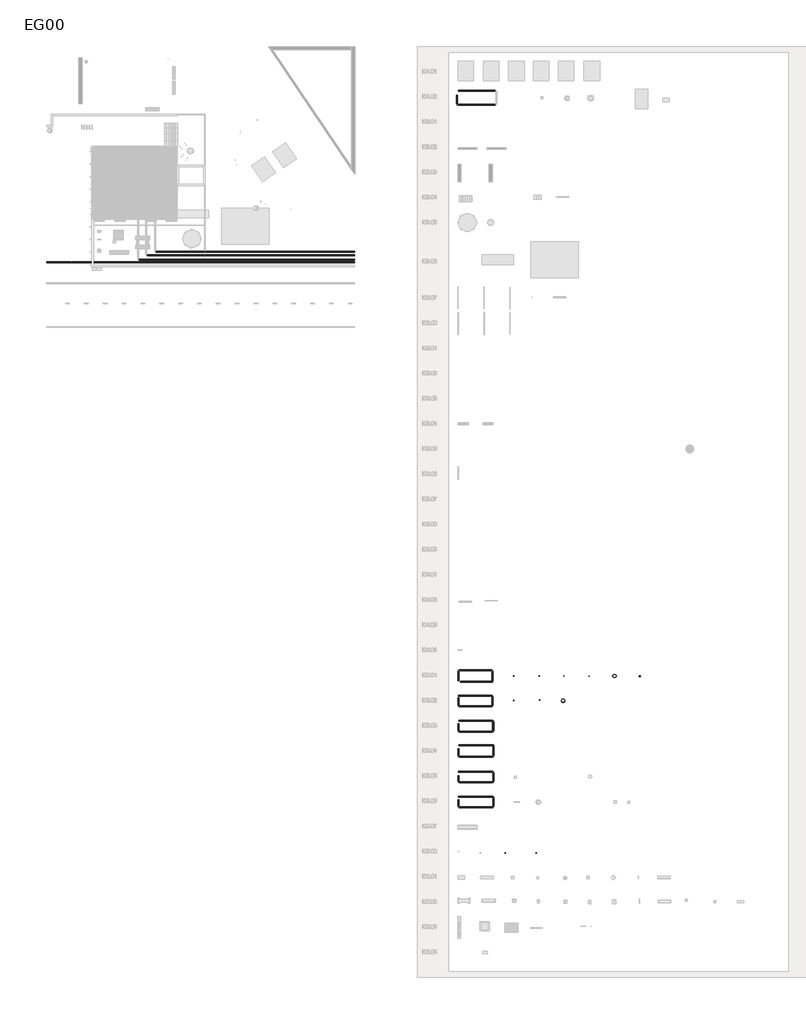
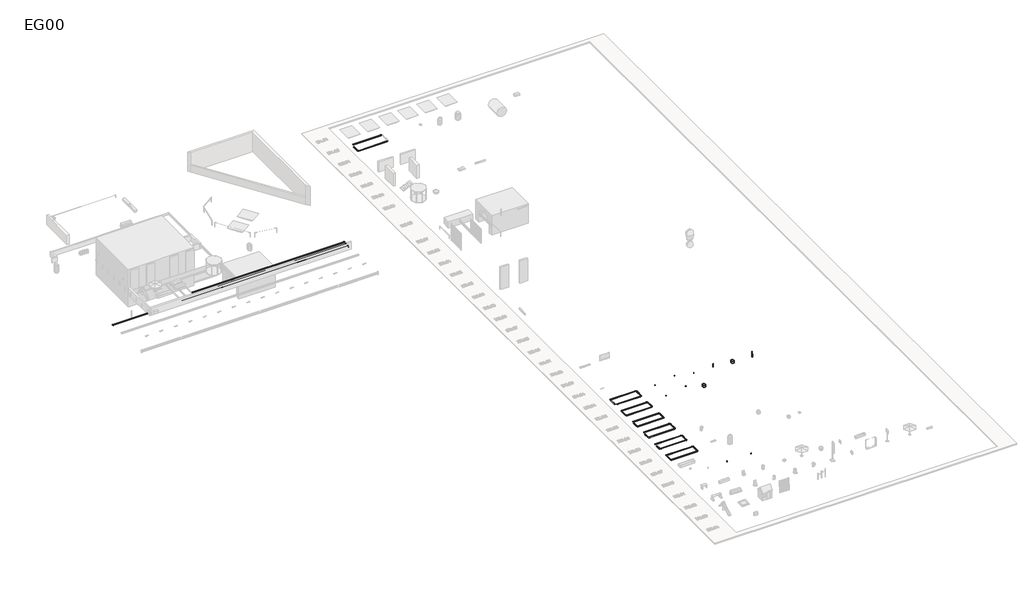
# One storey, part 3 of 11: 31 pipe segments, 19 pipe fittings, 11 proxies.
"""IFC4 building model written with IfcOpenShell, lengths in millimetres."""

from ifc_helpers import new_model, si_unit, point, frame, frame_2d, origin, place, context, project, spatial, circle_curve, trimmed, segment, composite_curve, outline, extrude, transform, mapped, element, save
from components import electrical_equipment_5f63efc2, electrical_equipment_aeb4d91f, electrical_equipment_71b73a1d, electrical_equipment_811451ff, electrical_equipment_3768a2da, electrical_fixtures_cd0d24b8, electrical_fixtures_bf902562, electrical_fixtures_4c376501, bogen_61cc4290

model = new_model("IFC4")

# Units and contexts
model_context = context("Model", 3, world=origin())
ifc_project = project(units=[si_unit("LENGTHUNIT", "METRE", prefix="MILLI")], contexts=[model_context])

# Site, building, storey
site = spatial("IfcSite", under=ifc_project)
building = spatial("IfcBuilding", under=site)
storey = spatial("IfcBuildingStorey", under=building, Name="EG00", Elevation=0.0)

# Proxies
placement = place(None, origin())
electrical_equipment_shape = electrical_equipment_5f63efc2(model_context)
element("IfcBuildingElementProxy", 1, Name="Starkstromdose : Starkstromdose", ObjectType="Starkstromdose : Starkstromdose", at=placement, inside=storey, context=model_context, shape_type="MappedRepresentation", body=[
    mapped(electrical_equipment_shape, transform((55575.1993098, -89956.1320916, 0.0), x_axis=(-1.0, 0.0, 0.0), y_axis=(0.0, -1.0, 0.0), z_axis=(0.0, 0.0, 1.0))),
])
electrical_equipment_2_shape = electrical_equipment_aeb4d91f(model_context)
element("IfcBuildingElementProxy", 2, Name="Starkstromschalter : Starkstromschalter", ObjectType="Starkstromschalter : Starkstromschalter", at=placement, inside=storey, context=model_context, shape_type="MappedRepresentation", body=[
    mapped(electrical_equipment_2_shape, transform((59643.44098, -89936.741198, 0.0), x_axis=(-1.0, 0.0, 0.0), y_axis=(0.0, -1.0, 0.0), z_axis=(0.0, 0.0, 1.0))),
])
electrical_equipment_3_shape = electrical_equipment_71b73a1d(model_context)
element("IfcBuildingElementProxy", 3, Name="Fühler/Sensor : Fühler/Sensor", ObjectType="Fühler/Sensor : Fühler/Sensor", at=placement, inside=storey, context=model_context, shape_type="MappedRepresentation", body=[
    mapped(electrical_equipment_3_shape, transform((63572.9212423, -89944.7410921, 0.0), x_axis=(-1.0, 0.0, 0.0), y_axis=(0.0, -1.0, 0.0), z_axis=(0.0, 0.0, 1.0))),
])
electrical_equipment_4_shape = electrical_equipment_811451ff(model_context)
element("IfcBuildingElementProxy", 4, Name="Aussenleuchten : Aussenleuchten", ObjectType="Aussenleuchten : Aussenleuchten", at=placement, inside=storey, context=model_context, shape_type="MappedRepresentation", body=[
    mapped(electrical_equipment_4_shape, transform((67581.4391527, -89956.5836675, 0.0), x_axis=(-1.0, 0.0, 0.0), y_axis=(0.0, -1.0, 0.0), z_axis=(0.0, 0.0, 1.0))),
])
electrical_equipment_5_shape = electrical_equipment_3768a2da(model_context)
element("IfcBuildingElementProxy", 5, Name="Versenkbarer Poller : Versenkbarer Poller", ObjectType="Versenkbarer Poller : Versenkbarer Poller", at=placement, inside=storey, context=model_context, shape_type="MappedRepresentation", body=[
    mapped(electrical_equipment_5_shape, transform((75641.6659587, -89956.1320916, 0.0), x_axis=(-1.0, 0.0, 0.0), y_axis=(0.0, -1.0, 0.0), z_axis=(0.0, 0.0, 1.0))),
])
element("IfcBuildingElementProxy", 6, Name="Schwachstromdose : Schwachstromdose", ObjectType="Schwachstromdose : Schwachstromdose", at=placement, inside=storey, context=model_context, shape_type="MappedRepresentation", body=[
    mapped(electrical_equipment_shape, transform((55613.233538, -93840.4199344, 0.0), x_axis=(-1.0, 0.0, 0.0), y_axis=(0.0, -1.0, 0.0), z_axis=(0.0, 0.0, 1.0))),
])
element("IfcBuildingElementProxy", 7, Name="Schwachstromschalter : Schwachstromschalter", ObjectType="Schwachstromschalter : Schwachstromschalter", at=placement, inside=storey, context=model_context, shape_type="MappedRepresentation", body=[
    mapped(electrical_equipment_2_shape, transform((59715.0910928, -93760.6007492, 0.0), x_axis=(-1.0, 0.0, 0.0), y_axis=(0.0, -1.0, 0.0), z_axis=(0.0, 0.0, 1.0))),
])
electrical_fixtures_shape = electrical_fixtures_cd0d24b8(model_context)
element("IfcBuildingElementProxy", 8, Name="Schliessanlage : Schliessanlage", ObjectType="Schliessanlage : Schliessanlage", at=placement, inside=storey, context=model_context, shape_type="MappedRepresentation", body=[
    mapped(electrical_fixtures_shape, transform((59228.3524907, -118065.219709, 0.0), x_axis=(-1.0, 0.0, 0.0), y_axis=(0.0, -1.0, 0.0), z_axis=(0.0, 0.0, 1.0))),
])
electrical_fixtures_2_shape = electrical_fixtures_bf902562(model_context)
element("IfcBuildingElementProxy", 9, Name="Zutrittskontrollanlage : Zutrittskontrollanlage", ObjectType="Zutrittskontrollanlage : Zutrittskontrollanlage", at=placement, inside=storey, context=model_context, shape_type="MappedRepresentation", body=[
    mapped(electrical_fixtures_2_shape, transform((54276.2570038, -118065.219709, 0.0), x_axis=(-1.0, 0.0, 0.0), y_axis=(0.0, -1.0, 0.0), z_axis=(0.0, 0.0, 1.0))),
])
electrical_fixtures_3_shape = electrical_fixtures_4c376501(model_context)
element("IfcBuildingElementProxy", 10, Name="Technikschacht Starkstrom : Technikschacht", ObjectType="Technikschacht Starkstrom : Technikschacht", at=placement, inside=storey, context=model_context, shape_type="MappedRepresentation", body=[
    mapped(electrical_fixtures_3_shape, transform((71622.8696295, -89917.6180182, 0.0), x_axis=(-1.0, 0.0, 0.0), y_axis=(0.0, -1.0, 0.0), z_axis=(0.0, 0.0, 1.0))),
])
element("IfcBuildingElementProxy", 11, Name="Technikschacht Schwachstrom : Technikschacht", ObjectType="Technikschacht Schwachstrom : Technikschacht", at=placement, inside=storey, context=model_context, shape_type="MappedRepresentation", body=[
    mapped(electrical_fixtures_3_shape, transform((63452.1649251, -93857.3625191, 0.0), x_axis=(-1.0, 0.0, 0.0), y_axis=(0.0, -1.0, 0.0), z_axis=(0.0, 0.0, 1.0))),
])

# Pipe fittings
bogen_shape = bogen_61cc4290(model_context)
element("IfcPipeFitting", 12, ObjectType="Bogen : Formstück Schutzrohr Starkstrom", at=placement, inside=storey, context=model_context, shape_type="MappedRepresentation", body=[
    mapped(bogen_shape, transform((46802.6260373, -89020.1536164, -450.0), x_axis=(0.0, 1.0, 0.0), y_axis=(-1.0, 0.0, 0.0), z_axis=(0.0, 0.0, 1.0))),
])
element("IfcPipeFitting", 13, ObjectType="Bogen : Formstück Schutzrohr Starkstrom", at=placement, inside=storey, context=model_context, shape_type="MappedRepresentation", body=[
    mapped(bogen_shape, transform((52222.626373, -89020.1536164, -449.8592749), x_axis=(1.0, 0.0, 0.0), y_axis=(0.0, 1.0, 0.0), z_axis=(0.0, 0.0, 1.0))),
])
element("IfcPipeFitting", 14, ObjectType="Bogen : Formstück Schutzrohr Starkstrom", at=placement, inside=storey, context=model_context, shape_type="MappedRepresentation", body=[
    mapped(bogen_shape, transform((52222.626373, -90881.1536164, -449.8592749), x_axis=(0.0, -1.0, 0.0), y_axis=(1.0, 0.0, 0.0), z_axis=(0.0, 0.0, 1.0))),
])
element("IfcPipeFitting", 15, ObjectType="Bogen : Formstück Schutzrohr Schwachstrom", at=placement, inside=storey, context=model_context, shape_type="MappedRepresentation", body=[
    mapped(bogen_shape, transform((52222.6264057, -93053.231936, -449.8157171), x_axis=(1.0, 0.0, 0.0), y_axis=(0.0, 1.0, 0.0), z_axis=(0.0, 0.0, 1.0))),
])
element("IfcPipeFitting", 16, ObjectType="Bogen : Formstück Schutzrohr Schwachstrom", at=placement, inside=storey, context=model_context, shape_type="MappedRepresentation", body=[
    mapped(bogen_shape, transform((52222.6264057, -94762.231936, -449.8157171), x_axis=(0.0, -1.0, 0.0), y_axis=(1.0, 0.0, 0.0), z_axis=(0.0, 0.0, 1.0))),
])
element("IfcPipeFitting", 17, ObjectType="Bogen : Formstück Schutzrohr Schwachstrom", at=placement, inside=storey, context=model_context, shape_type="MappedRepresentation", body=[
    mapped(bogen_shape, transform((46802.6260373, -94762.231936, -450.0), x_axis=(-1.0, 0.0, 0.0), y_axis=(0.0, -1.0, 0.0), z_axis=(0.0, 0.0, 1.0))),
])
element("IfcPipeFitting", 18, ObjectType="Bogen : Wärmeanlage für Umgebung", at=placement, inside=storey, context=model_context, shape_type="MappedRepresentation", body=[
    mapped(bogen_shape, transform((52330.626143, -97078.6679127, -450.0), x_axis=(1.0, 0.0, 0.0), y_axis=(0.0, 1.0, 0.0), z_axis=(0.0, 0.0, 1.0))),
])
element("IfcPipeFitting", 19, ObjectType="Bogen : Wärmeanlage für Umgebung", at=placement, inside=storey, context=model_context, shape_type="MappedRepresentation", body=[
    mapped(bogen_shape, transform((52330.626143, -98765.6679127, -450.0), x_axis=(0.0, -1.0, 0.0), y_axis=(1.0, 0.0, 0.0), z_axis=(0.0, 0.0, 1.0))),
])
element("IfcPipeFitting", 20, ObjectType="Bogen : Wärmeanlage für Umgebung", at=placement, inside=storey, context=model_context, shape_type="MappedRepresentation", body=[
    mapped(bogen_shape, transform((46802.6262607, -98765.6679127, -449.8793783), x_axis=(-1.0, 0.0, 0.0), y_axis=(0.0, -1.0, 0.0), z_axis=(0.0, 0.0, 1.0))),
])
element("IfcPipeFitting", 21, ObjectType="Bogen : Kälteanlage für Umgebung", at=placement, inside=storey, context=model_context, shape_type="MappedRepresentation", body=[
    mapped(bogen_shape, transform((52375.626143, -100907.2734157, -450.0), x_axis=(1.0, 0.0, 0.0), y_axis=(0.0, 1.0, 0.0), z_axis=(0.0, 0.0, 1.0))),
])
element("IfcPipeFitting", 22, ObjectType="Bogen : Kälteanlage für Umgebung", at=placement, inside=storey, context=model_context, shape_type="MappedRepresentation", body=[
    mapped(bogen_shape, transform((52375.626143, -102750.2734157, -450.0), x_axis=(0.0, -1.0, 0.0), y_axis=(1.0, 0.0, 0.0), z_axis=(0.0, 0.0, 1.0))),
])
element("IfcPipeFitting", 23, ObjectType="Bogen : Kälteanlage für Umgebung", at=placement, inside=storey, context=model_context, shape_type="MappedRepresentation", body=[
    mapped(bogen_shape, transform((46802.626143, -102750.2734157, -450.0), x_axis=(-1.0, 0.0, 0.0), y_axis=(0.0, -1.0, 0.0), z_axis=(0.0, 0.0, 1.0))),
])
element("IfcPipeFitting", 24, ObjectType="Bogen : Sanitäre Anlage für Umgebung", at=placement, inside=storey, context=model_context, shape_type="MappedRepresentation", body=[
    mapped(bogen_shape, transform((52375.6259013, -105146.9622143, -450.1641794), x_axis=(1.0, 0.0, 0.0), y_axis=(0.0, 1.0, 0.0), z_axis=(0.0, 0.0, 1.0))),
])
element("IfcPipeFitting", 25, ObjectType="Bogen : Sanitäre Anlage für Umgebung", at=placement, inside=storey, context=model_context, shape_type="MappedRepresentation", body=[
    mapped(bogen_shape, transform((52375.6259013, -106789.9622143, -450.1641794), x_axis=(0.0, -1.0, 0.0), y_axis=(1.0, 0.0, 0.0), z_axis=(0.0, 0.0, 1.0))),
])
element("IfcPipeFitting", 26, ObjectType="Bogen : Sanitäre Anlage für Umgebung", at=placement, inside=storey, context=model_context, shape_type="MappedRepresentation", body=[
    mapped(bogen_shape, transform((46802.626143, -106789.9622143, -450.0), x_axis=(-1.0, 0.0, 0.0), y_axis=(0.0, -1.0, 0.0), z_axis=(0.0, 0.0, 1.0))),
])
element("IfcPipeFitting", 27, ObjectType="Bogen : Formstück", at=placement, inside=storey, context=model_context, shape_type="MappedRepresentation", body=[
    mapped(bogen_shape, transform((46562.8230387, 891.7579927, -450.0), x_axis=(-1.0, 0.0, 0.0), y_axis=(0.0, -1.0, 0.0), z_axis=(0.0, 0.0, 1.0))),
])
element("IfcPipeFitting", 28, ObjectType="Bogen : Oberflächenentwässerung Umgebung", at=placement, inside=storey, context=model_context, shape_type="MappedRepresentation", body=[
    mapped(bogen_shape, transform((52375.6255956, -109105.0232436, -450.3384106), x_axis=(1.0, 0.0, 0.0), y_axis=(0.0, 1.0, 0.0), z_axis=(0.0, 0.0, 1.0))),
])
element("IfcPipeFitting", 29, ObjectType="Bogen : Oberflächenentwässerung Umgebung", at=placement, inside=storey, context=model_context, shape_type="MappedRepresentation", body=[
    mapped(bogen_shape, transform((52375.6255956, -110797.0232436, -450.3384106), x_axis=(0.0, -1.0, 0.0), y_axis=(1.0, 0.0, 0.0), z_axis=(0.0, 0.0, 1.0))),
])
element("IfcPipeFitting", 30, ObjectType="Bogen : Oberflächenentwässerung Umgebung", at=placement, inside=storey, context=model_context, shape_type="MappedRepresentation", body=[
    mapped(bogen_shape, transform((46802.626143, -110797.0232436, -450.3384106), x_axis=(-1.0, 0.0, 0.0), y_axis=(0.0, -1.0, 0.0), z_axis=(0.0, 0.0, 1.0))),
])

# Pipe segments
element("IfcPipeSegment", 31, ObjectType="Rohr", at=placement, inside=storey, context=model_context, shape_type="SweptSolid", body=[
    extrude(outline(composite_curve([segment(trimmed(circle_curve(frame_2d((-24180.6172052, -450.0)), 80.0), [point((-24100.6172052, -450.0))], [point((-24180.6172052, -530.0))], False, "CARTESIAN"), True, "CONTINUOUS"), segment(trimmed(circle_curve(frame_2d((-24180.6172052, -450.0)), 80.0), [point((-24180.6172052, -530.0))], [point((-24260.6172052, -450.0))], False, "CARTESIAN"), True, "CONTINUOUS"), segment(trimmed(circle_curve(frame_2d((-24180.6172052, -450.0)), 80.0), [point((-24260.6172052, -450.0))], [point((-24180.6172052, -370.0))], False, "CARTESIAN"), True, "CONTINUOUS"), segment(trimmed(circle_curve(frame_2d((-24180.6172052, -450.0)), 80.0), [point((-24180.6172052, -370.0))], [point((-24100.6172052, -450.0))], False, "CARTESIAN"), True, "CONTINUOUS")], self_intersect=False)), frame((-18699.2832024, 0.0, 0.0), z_axis=(1.0, 0.0, 0.0), x_axis=(0.0, 1.0, 0.0)), (0.0, 0.0, 1.0), 48957.0),
])
element("IfcPipeSegment", 32, ObjectType="Wärmeanlage für Umgebung", at=placement, inside=storey, context=model_context, shape_type="SweptSolid", body=[
    extrude(outline(composite_curve([segment(trimmed(circle_curve(frame_2d((-23743.697095, -450.0)), 80.0), [point((-23823.697095, -450.0))], [point((-23743.697095, -370.0))], False, "CARTESIAN"), True, "CONTINUOUS"), segment(trimmed(circle_curve(frame_2d((-23743.697095, -450.0)), 80.0), [point((-23743.697095, -370.0))], [point((-23663.697095, -450.0))], False, "CARTESIAN"), True, "CONTINUOUS"), segment(trimmed(circle_curve(frame_2d((-23743.697095, -450.0)), 80.0), [point((-23663.697095, -450.0))], [point((-23743.697095, -530.0))], False, "CARTESIAN"), True, "CONTINUOUS"), segment(trimmed(circle_curve(frame_2d((-23743.697095, -450.0)), 80.0), [point((-23743.697095, -530.0))], [point((-23823.697095, -450.0))], False, "CARTESIAN"), True, "CONTINUOUS")], self_intersect=False)), frame((-4017.8892616, 0.0, 0.0), z_axis=(1.0, 0.0, 0.0), x_axis=(0.0, 1.0, 0.0)), (0.0, 0.0, 1.0), 34275.6060592),
])
element("IfcPipeSegment", 33, ObjectType="Kälteanlage für Umgebung", at=placement, inside=storey, context=model_context, shape_type="SweptSolid", body=[
    extrude(outline(composite_curve([segment(trimmed(circle_curve(frame_2d((-22507.5588268, -450.0)), 80.0), [point((-22587.5588268, -450.0))], [point((-22507.5588268, -370.0))], False, "CARTESIAN"), True, "CONTINUOUS"), segment(trimmed(circle_curve(frame_2d((-22507.5588268, -450.0)), 80.0), [point((-22507.5588268, -370.0))], [point((-22427.5588268, -450.0))], False, "CARTESIAN"), True, "CONTINUOUS"), segment(trimmed(circle_curve(frame_2d((-22507.5588268, -450.0)), 80.0), [point((-22427.5588268, -450.0))], [point((-22507.5588268, -530.0))], False, "CARTESIAN"), True, "CONTINUOUS"), segment(trimmed(circle_curve(frame_2d((-22507.5588268, -450.0)), 80.0), [point((-22507.5588268, -530.0))], [point((-22587.5588268, -450.0))], False, "CARTESIAN"), True, "CONTINUOUS")], self_intersect=False)), frame((-1279.2708017, 0.0, 0.0), z_axis=(1.0, 0.0, 0.0), x_axis=(0.0, 1.0, 0.0)), (0.0, 0.0, 1.0), 31536.9875992),
])
element("IfcPipeSegment", 34, ObjectType="Sanitäre Anlage für Umgebung", at=placement, inside=storey, context=model_context, shape_type="SweptSolid", body=[
    extrude(outline(composite_curve([segment(trimmed(circle_curve(frame_2d((-23034.9886736, -450.1641794)), 80.0), [point((-23114.9886736, -450.1641794))], [point((-23034.9886736, -370.1641794))], False, "CARTESIAN"), True, "CONTINUOUS"), segment(trimmed(circle_curve(frame_2d((-23034.9886736, -450.1641794)), 80.0), [point((-23034.9886736, -370.1641794))], [point((-22954.9886736, -450.1641794))], False, "CARTESIAN"), True, "CONTINUOUS"), segment(trimmed(circle_curve(frame_2d((-23034.9886736, -450.1641794)), 80.0), [point((-22954.9886736, -450.1641794))], [point((-23034.9886736, -530.1641794))], False, "CARTESIAN"), True, "CONTINUOUS"), segment(trimmed(circle_curve(frame_2d((-23034.9886736, -450.1641794)), 80.0), [point((-23034.9886736, -530.1641794))], [point((-23114.9886736, -450.1641794))], False, "CARTESIAN"), True, "CONTINUOUS")], self_intersect=False)), frame((-2736.6957901, 0.0, 0.0), z_axis=(1.0, 0.0, 0.0), x_axis=(0.0, 1.0, 0.0)), (0.0, 0.0, 1.0), 32994.4125877),
])
element("IfcPipeSegment", 35, ObjectType="Schutzrohr Starkstrom", at=placement, inside=storey, context=model_context, shape_type="SweptSolid", body=[
    extrude(outline(composite_curve([segment(trimmed(circle_curve(frame_2d((-450.0000001, 46802.626143)), 80.0), [point((-450.0000001, 46882.626143))], [point((-370.0000001, 46802.626143))], False, "CARTESIAN"), True, "CONTINUOUS"), segment(trimmed(circle_curve(frame_2d((-450.0000001, 46802.626143)), 80.0), [point((-370.0000001, 46802.626143))], [point((-450.0000001, 46722.626143))], False, "CARTESIAN"), True, "CONTINUOUS"), segment(trimmed(circle_curve(frame_2d((-450.0000001, 46802.626143)), 80.0), [point((-450.0000001, 46722.626143))], [point((-530.0000001, 46802.626143))], False, "CARTESIAN"), True, "CONTINUOUS"), segment(trimmed(circle_curve(frame_2d((-450.0000001, 46802.626143)), 80.0), [point((-530.0000001, 46802.626143))], [point((-450.0000001, 46882.626143))], False, "CARTESIAN"), True, "CONTINUOUS")], self_intersect=False)), frame((0.0, -90693.1536163, 0.0), z_axis=(0.0, 1.0, 0.0), x_axis=(0.0, 0.0, 1.0)), (0.0, 0.0, 1.0), 1521.0),
])
element("IfcPipeSegment", 36, ObjectType="Schutzrohr Starkstrom", at=placement, inside=storey, context=model_context, shape_type="SweptSolid", body=[
    extrude(outline(composite_curve([segment(trimmed(circle_curve(frame_2d((0.0, 80.0)), 80.0), [point((-80.0, 80.0))], [point((0.0, 160.0000001))], False, "CARTESIAN"), True, "CONTINUOUS"), segment(trimmed(circle_curve(frame_2d((0.0, 80.0)), 80.0), [point((0.0, 160.0000001))], [point((80.0, 80.0))], False, "CARTESIAN"), True, "CONTINUOUS"), segment(trimmed(circle_curve(frame_2d((0.0, 80.0)), 80.0), [point((80.0, 80.0))], [point((0.0, 0.0))], False, "CARTESIAN"), True, "CONTINUOUS"), segment(trimmed(circle_curve(frame_2d((0.0, 80.0)), 80.0), [point((0.0, 0.0))], [point((-80.0, 80.0))], False, "CARTESIAN"), True, "CONTINUOUS")], self_intersect=False)), frame((46954.6282378, -89020.1536164, -530.0), z_axis=(0.9999999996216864, 0.0, 2.750685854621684e-05), x_axis=(0.0, 1.0, 0.0)), (0.0, 0.0, 1.0), 5116.0003377),
])
element("IfcPipeSegment", 37, ObjectType="Schutzrohr Starkstrom", at=placement, inside=storey, context=model_context, shape_type="SweptSolid", body=[
    extrude(outline(composite_curve([segment(trimmed(circle_curve(frame_2d((-449.8592749, 52222.626373)), 80.0), [point((-449.8592749, 52142.626373))], [point((-529.8592749, 52222.626373))], False, "CARTESIAN"), True, "CONTINUOUS"), segment(trimmed(circle_curve(frame_2d((-449.8592749, 52222.626373)), 80.0), [point((-529.8592749, 52222.626373))], [point((-449.8592749, 52302.626373))], False, "CARTESIAN"), True, "CONTINUOUS"), segment(trimmed(circle_curve(frame_2d((-449.8592749, 52222.626373)), 80.0), [point((-449.8592749, 52302.626373))], [point((-369.8592749, 52222.626373))], False, "CARTESIAN"), True, "CONTINUOUS"), segment(trimmed(circle_curve(frame_2d((-449.8592749, 52222.626373)), 80.0), [point((-369.8592749, 52222.626373))], [point((-449.8592749, 52142.626373))], False, "CARTESIAN"), True, "CONTINUOUS")], self_intersect=False)), frame((0.0, -90729.1536164, 0.0), z_axis=(0.0, 1.0, 0.0), x_axis=(0.0, 0.0, 1.0)), (0.0, 0.0, 1.0), 1557.0),
])
element("IfcPipeSegment", 38, ObjectType="Schutzrohr Starkstrom", at=placement, inside=storey, context=model_context, shape_type="SweptSolid", body=[
    extrude(outline(composite_curve([segment(trimmed(circle_curve(frame_2d((-90881.1536164, -449.8592749)), 80.0), [point((-90801.1536164, -449.8592749))], [point((-90881.1536164, -529.8592749))], False, "CARTESIAN"), True, "CONTINUOUS"), segment(trimmed(circle_curve(frame_2d((-90881.1536164, -449.8592749)), 80.0), [point((-90881.1536164, -529.8592749))], [point((-90961.1536164, -449.8592749))], False, "CARTESIAN"), True, "CONTINUOUS"), segment(trimmed(circle_curve(frame_2d((-90881.1536164, -449.8592749)), 80.0), [point((-90961.1536164, -449.8592749))], [point((-90881.1536164, -369.8592749))], False, "CARTESIAN"), True, "CONTINUOUS"), segment(trimmed(circle_curve(frame_2d((-90881.1536164, -449.8592749)), 80.0), [point((-90881.1536164, -369.8592749))], [point((-90801.1536164, -449.8592749))], False, "CARTESIAN"), True, "CONTINUOUS")], self_intersect=False)), frame((47160.6260373, 0.0, 0.0), z_axis=(1.0, 0.0, 0.0), x_axis=(0.0, 1.0, 0.0)), (0.0, 0.0, 1.0), 4910.0003358),
])
element("IfcPipeSegment", 39, ObjectType="Schutzrohr Schwachstrom", at=placement, inside=storey, context=model_context, shape_type="SweptSolid", body=[
    extrude(outline(composite_curve([segment(trimmed(circle_curve(frame_2d((-93053.231936, -449.8157171)), 80.0), [point((-93133.231936, -449.8157171))], [point((-93053.231936, -369.8157171))], False, "CARTESIAN"), True, "CONTINUOUS"), segment(trimmed(circle_curve(frame_2d((-93053.231936, -449.8157171)), 80.0), [point((-93053.231936, -369.8157171))], [point((-92973.231936, -449.8157171))], False, "CARTESIAN"), True, "CONTINUOUS"), segment(trimmed(circle_curve(frame_2d((-93053.231936, -449.8157171)), 80.0), [point((-92973.231936, -449.8157171))], [point((-93053.231936, -529.8157171))], False, "CARTESIAN"), True, "CONTINUOUS"), segment(trimmed(circle_curve(frame_2d((-93053.231936, -449.8157171)), 80.0), [point((-93053.231936, -529.8157171))], [point((-93133.231936, -449.8157171))], False, "CARTESIAN"), True, "CONTINUOUS")], self_intersect=False)), frame((46802.6260373, 0.0, 0.0), z_axis=(1.0, 0.0, 0.0), x_axis=(0.0, 1.0, 0.0)), (0.0, 0.0, 1.0), 5268.0003685),
])
element("IfcPipeSegment", 40, ObjectType="Schutzrohr Schwachstrom", at=placement, inside=storey, context=model_context, shape_type="SweptSolid", body=[
    extrude(outline(composite_curve([segment(trimmed(circle_curve(frame_2d((-449.8157171, 52222.6264057)), 80.0), [point((-449.8157171, 52142.6264057))], [point((-529.8157171, 52222.6264057))], False, "CARTESIAN"), True, "CONTINUOUS"), segment(trimmed(circle_curve(frame_2d((-449.8157171, 52222.6264057)), 80.0), [point((-529.8157171, 52222.6264057))], [point((-449.8157171, 52302.6264057))], False, "CARTESIAN"), True, "CONTINUOUS"), segment(trimmed(circle_curve(frame_2d((-449.8157171, 52222.6264057)), 80.0), [point((-449.8157171, 52302.6264057))], [point((-369.8157171, 52222.6264057))], False, "CARTESIAN"), True, "CONTINUOUS"), segment(trimmed(circle_curve(frame_2d((-449.8157171, 52222.6264057)), 80.0), [point((-369.8157171, 52222.6264057))], [point((-449.8157171, 52142.6264057))], False, "CARTESIAN"), True, "CONTINUOUS")], self_intersect=False)), frame((0.0, -94610.231936, 0.0), z_axis=(0.0, 1.0, 0.0), x_axis=(0.0, 0.0, 1.0)), (0.0, 0.0, 1.0), 1405.0),
])
element("IfcPipeSegment", 41, ObjectType="Schutzrohr Schwachstrom", at=placement, inside=storey, context=model_context, shape_type="SweptSolid", body=[
    extrude(outline(composite_curve([segment(trimmed(circle_curve(frame_2d((0.0, -80.0)), 80.0), [point((-80.0, -80.0))], [point((0.0, 0.0))], False, "CARTESIAN"), True, "CONTINUOUS"), segment(trimmed(circle_curve(frame_2d((0.0, -80.0)), 80.0), [point((0.0, 0.0))], [point((80.0, -80.0))], False, "CARTESIAN"), True, "CONTINUOUS"), segment(trimmed(circle_curve(frame_2d((0.0, -80.0)), 80.0), [point((80.0, -80.0))], [point((0.0, -159.9999999))], False, "CARTESIAN"), True, "CONTINUOUS"), segment(trimmed(circle_curve(frame_2d((0.0, -80.0)), 80.0), [point((0.0, -159.9999999))], [point((-80.0, -80.0))], False, "CARTESIAN"), True, "CONTINUOUS")], self_intersect=False)), frame((46954.6289189, -94762.231936, -529.9999999), z_axis=(0.9999999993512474, 0.0, 3.602090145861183e-05), x_axis=(0.0, -1.0, 0.0)), (0.0, 0.0, 1.0), 5116.0003718),
])
element("IfcPipeSegment", 42, ObjectType="Schutzrohr Schwachstrom", at=placement, inside=storey, context=model_context, shape_type="SweptSolid", body=[
    extrude(outline(composite_curve([segment(trimmed(circle_curve(frame_2d((-450.0, 46802.6260494)), 80.0), [point((-450.0, 46882.6260494))], [point((-370.0, 46802.6260494))], False, "CARTESIAN"), True, "CONTINUOUS"), segment(trimmed(circle_curve(frame_2d((-450.0, 46802.6260494)), 80.0), [point((-370.0, 46802.6260494))], [point((-450.0, 46722.6260494))], False, "CARTESIAN"), True, "CONTINUOUS"), segment(trimmed(circle_curve(frame_2d((-450.0, 46802.6260494)), 80.0), [point((-450.0, 46722.6260494))], [point((-530.0, 46802.6260494))], False, "CARTESIAN"), True, "CONTINUOUS"), segment(trimmed(circle_curve(frame_2d((-450.0, 46802.6260494)), 80.0), [point((-530.0, 46802.6260494))], [point((-450.0, 46882.6260494))], False, "CARTESIAN"), True, "CONTINUOUS")], self_intersect=False)), frame((0.0, -94610.231936, 0.0), z_axis=(0.0, 1.0, 0.0), x_axis=(0.0, 0.0, 1.0)), (0.0, 0.0, 1.0), 1239.0),
])
element("IfcPipeSegment", 43, ObjectType="Wärmeanlage für Umgebung", at=placement, inside=storey, context=model_context, shape_type="SweptSolid", body=[
    extrude(outline(composite_curve([segment(trimmed(circle_curve(frame_2d((-97078.6679127, -450.0)), 80.0), [point((-97158.6679127, -450.0))], [point((-97078.6679127, -370.0))], False, "CARTESIAN"), True, "CONTINUOUS"), segment(trimmed(circle_curve(frame_2d((-97078.6679127, -450.0)), 80.0), [point((-97078.6679127, -370.0))], [point((-96998.6679127, -450.0))], False, "CARTESIAN"), True, "CONTINUOUS"), segment(trimmed(circle_curve(frame_2d((-97078.6679127, -450.0)), 80.0), [point((-96998.6679127, -450.0))], [point((-97078.6679127, -530.0))], False, "CARTESIAN"), True, "CONTINUOUS"), segment(trimmed(circle_curve(frame_2d((-97078.6679127, -450.0)), 80.0), [point((-97078.6679127, -530.0))], [point((-97158.6679127, -450.0))], False, "CARTESIAN"), True, "CONTINUOUS")], self_intersect=False)), frame((46910.626143, 0.0, 0.0), z_axis=(1.0, 0.0, 0.0), x_axis=(0.0, 1.0, 0.0)), (0.0, 0.0, 1.0), 5268.0),
])
element("IfcPipeSegment", 44, ObjectType="Wärmeanlage für Umgebung", at=placement, inside=storey, context=model_context, shape_type="SweptSolid", body=[
    extrude(outline(composite_curve([segment(trimmed(circle_curve(frame_2d((-450.0, 52330.626143)), 80.0), [point((-450.0, 52250.626143))], [point((-530.0, 52330.626143))], False, "CARTESIAN"), True, "CONTINUOUS"), segment(trimmed(circle_curve(frame_2d((-450.0, 52330.626143)), 80.0), [point((-530.0, 52330.626143))], [point((-450.0, 52410.626143))], False, "CARTESIAN"), True, "CONTINUOUS"), segment(trimmed(circle_curve(frame_2d((-450.0, 52330.626143)), 80.0), [point((-450.0, 52410.626143))], [point((-370.0, 52330.626143))], False, "CARTESIAN"), True, "CONTINUOUS"), segment(trimmed(circle_curve(frame_2d((-450.0, 52330.626143)), 80.0), [point((-370.0, 52330.626143))], [point((-450.0, 52250.626143))], False, "CARTESIAN"), True, "CONTINUOUS")], self_intersect=False)), frame((0.0, -98613.6679127, 0.0), z_axis=(0.0, 1.0, 0.0), x_axis=(0.0, 0.0, 1.0)), (0.0, 0.0, 1.0), 1383.0),
])
element("IfcPipeSegment", 45, ObjectType="Wärmeanlage für Umgebung", at=placement, inside=storey, context=model_context, shape_type="SweptSolid", body=[
    extrude(outline(composite_curve([segment(trimmed(circle_curve(frame_2d((0.0, 80.0)), 80.0), [point((-80.0, 80.0))], [point((0.0, 160.0))], False, "CARTESIAN"), True, "CONTINUOUS"), segment(trimmed(circle_curve(frame_2d((0.0, 80.0)), 80.0), [point((0.0, 160.0))], [point((80.0, 80.0))], False, "CARTESIAN"), True, "CONTINUOUS"), segment(trimmed(circle_curve(frame_2d((0.0, 80.0)), 80.0), [point((80.0, 80.0))], [point((0.0, 0.0))], False, "CARTESIAN"), True, "CONTINUOUS"), segment(trimmed(circle_curve(frame_2d((0.0, 80.0)), 80.0), [point((0.0, 0.0))], [point((-80.0, 80.0))], False, "CARTESIAN"), True, "CONTINUOUS")], self_intersect=False)), frame((52178.6242958, -98765.6679127, -530.0), z_axis=(-0.999999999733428, 0.0, 2.308991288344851e-05), x_axis=(0.0, -1.0, 0.0)), (0.0, 0.0, 1.0), 5223.9998837),
])
element("IfcPipeSegment", 46, ObjectType="Wärmeanlage für Umgebung", at=placement, inside=storey, context=model_context, shape_type="SweptSolid", body=[
    extrude(outline(composite_curve([segment(trimmed(circle_curve(frame_2d((-449.8793783, 46802.6262607)), 80.0), [point((-449.8793783, 46882.6262607))], [point((-369.8793783, 46802.6262607))], False, "CARTESIAN"), True, "CONTINUOUS"), segment(trimmed(circle_curve(frame_2d((-449.8793783, 46802.6262607)), 80.0), [point((-369.8793783, 46802.6262607))], [point((-449.8793783, 46722.6262607))], False, "CARTESIAN"), True, "CONTINUOUS"), segment(trimmed(circle_curve(frame_2d((-449.8793783, 46802.6262607)), 80.0), [point((-449.8793783, 46722.6262607))], [point((-529.8793783, 46802.6262607))], False, "CARTESIAN"), True, "CONTINUOUS"), segment(trimmed(circle_curve(frame_2d((-449.8793783, 46802.6262607)), 80.0), [point((-529.8793783, 46802.6262607))], [point((-449.8793783, 46882.6262607))], False, "CARTESIAN"), True, "CONTINUOUS")], self_intersect=False)), frame((0.0, -98613.6679127, 0.0), z_axis=(0.0, 1.0, 0.0), x_axis=(0.0, 0.0, 1.0)), (0.0, 0.0, 1.0), 1061.9169252),
])
element("IfcPipeSegment", 47, ObjectType="Kälteanlage für Umgebung", at=placement, inside=storey, context=model_context, shape_type="SweptSolid", body=[
    extrude(outline(composite_curve([segment(trimmed(circle_curve(frame_2d((-100907.2734157, -450.0)), 80.0), [point((-100987.2734157, -450.0))], [point((-100907.2734157, -370.0))], False, "CARTESIAN"), True, "CONTINUOUS"), segment(trimmed(circle_curve(frame_2d((-100907.2734157, -450.0)), 80.0), [point((-100907.2734157, -370.0))], [point((-100827.2734157, -450.0))], False, "CARTESIAN"), True, "CONTINUOUS"), segment(trimmed(circle_curve(frame_2d((-100907.2734157, -450.0)), 80.0), [point((-100827.2734157, -450.0))], [point((-100907.2734157, -530.0))], False, "CARTESIAN"), True, "CONTINUOUS"), segment(trimmed(circle_curve(frame_2d((-100907.2734157, -450.0)), 80.0), [point((-100907.2734157, -530.0))], [point((-100987.2734157, -450.0))], False, "CARTESIAN"), True, "CONTINUOUS")], self_intersect=False)), frame((46910.626143, 0.0, 0.0), z_axis=(1.0, 0.0, 0.0), x_axis=(0.0, 1.0, 0.0)), (0.0, 0.0, 1.0), 5313.0),
])
element("IfcPipeSegment", 48, ObjectType="Kälteanlage für Umgebung", at=placement, inside=storey, context=model_context, shape_type="SweptSolid", body=[
    extrude(outline(composite_curve([segment(trimmed(circle_curve(frame_2d((-450.0, 52375.626143)), 80.0), [point((-450.0, 52295.626143))], [point((-530.0, 52375.626143))], False, "CARTESIAN"), True, "CONTINUOUS"), segment(trimmed(circle_curve(frame_2d((-450.0, 52375.626143)), 80.0), [point((-530.0, 52375.626143))], [point((-450.0, 52455.626143))], False, "CARTESIAN"), True, "CONTINUOUS"), segment(trimmed(circle_curve(frame_2d((-450.0, 52375.626143)), 80.0), [point((-450.0, 52455.626143))], [point((-370.0, 52375.626143))], False, "CARTESIAN"), True, "CONTINUOUS"), segment(trimmed(circle_curve(frame_2d((-450.0, 52375.626143)), 80.0), [point((-370.0, 52375.626143))], [point((-450.0, 52295.626143))], False, "CARTESIAN"), True, "CONTINUOUS")], self_intersect=False)), frame((0.0, -102598.2734157, 0.0), z_axis=(0.0, 1.0, 0.0), x_axis=(0.0, 0.0, 1.0)), (0.0, 0.0, 1.0), 1539.0),
])
element("IfcPipeSegment", 49, ObjectType="Kälteanlage für Umgebung", at=placement, inside=storey, context=model_context, shape_type="SweptSolid", body=[
    extrude(outline(composite_curve([segment(trimmed(circle_curve(frame_2d((-102750.2734157, -450.0)), 80.0), [point((-102670.2734157, -450.0))], [point((-102750.2734157, -530.0))], False, "CARTESIAN"), True, "CONTINUOUS"), segment(trimmed(circle_curve(frame_2d((-102750.2734157, -450.0)), 80.0), [point((-102750.2734157, -530.0))], [point((-102830.2734157, -450.0))], False, "CARTESIAN"), True, "CONTINUOUS"), segment(trimmed(circle_curve(frame_2d((-102750.2734157, -450.0)), 80.0), [point((-102830.2734157, -450.0))], [point((-102750.2734157, -370.0))], False, "CARTESIAN"), True, "CONTINUOUS"), segment(trimmed(circle_curve(frame_2d((-102750.2734157, -450.0)), 80.0), [point((-102750.2734157, -370.0))], [point((-102670.2734157, -450.0))], False, "CARTESIAN"), True, "CONTINUOUS")], self_intersect=False)), frame((46954.626143, 0.0, 0.0), z_axis=(1.0, 0.0, 0.0), x_axis=(0.0, 1.0, 0.0)), (0.0, 0.0, 1.0), 5269.0),
])
element("IfcPipeSegment", 50, ObjectType="Kälteanlage für Umgebung", at=placement, inside=storey, context=model_context, shape_type="SweptSolid", body=[
    extrude(outline(composite_curve([segment(trimmed(circle_curve(frame_2d((-450.0, 46802.626143)), 80.0), [point((-450.0, 46882.626143))], [point((-370.0, 46802.626143))], False, "CARTESIAN"), True, "CONTINUOUS"), segment(trimmed(circle_curve(frame_2d((-450.0, 46802.626143)), 80.0), [point((-370.0, 46802.626143))], [point((-450.0, 46722.626143))], False, "CARTESIAN"), True, "CONTINUOUS"), segment(trimmed(circle_curve(frame_2d((-450.0, 46802.626143)), 80.0), [point((-450.0, 46722.626143))], [point((-530.0, 46802.626143))], False, "CARTESIAN"), True, "CONTINUOUS"), segment(trimmed(circle_curve(frame_2d((-450.0, 46802.626143)), 80.0), [point((-530.0, 46802.626143))], [point((-450.0, 46882.626143))], False, "CARTESIAN"), True, "CONTINUOUS")], self_intersect=False)), frame((0.0, -102598.2734157, 0.0), z_axis=(0.0, 1.0, 0.0), x_axis=(0.0, 0.0, 1.0)), (0.0, 0.0, 1.0), 1065.0),
])
element("IfcPipeSegment", 51, ObjectType="Sanitäre Anlage für Umgebung", at=placement, inside=storey, context=model_context, shape_type="SweptSolid", body=[
    extrude(outline(composite_curve([segment(trimmed(circle_curve(frame_2d((-105146.9622143, -450.1641794)), 80.0), [point((-105226.9622143, -450.1641794))], [point((-105146.9622143, -370.1641794))], False, "CARTESIAN"), True, "CONTINUOUS"), segment(trimmed(circle_curve(frame_2d((-105146.9622143, -450.1641794)), 80.0), [point((-105146.9622143, -370.1641794))], [point((-105066.9622143, -450.1641794))], False, "CARTESIAN"), True, "CONTINUOUS"), segment(trimmed(circle_curve(frame_2d((-105146.9622143, -450.1641794)), 80.0), [point((-105066.9622143, -450.1641794))], [point((-105146.9622143, -530.1641794))], False, "CARTESIAN"), True, "CONTINUOUS"), segment(trimmed(circle_curve(frame_2d((-105146.9622143, -450.1641794)), 80.0), [point((-105146.9622143, -530.1641794))], [point((-105226.9622143, -450.1641794))], False, "CARTESIAN"), True, "CONTINUOUS")], self_intersect=False)), frame((46802.626143, 0.0, 0.0), z_axis=(1.0, 0.0, 0.0), x_axis=(0.0, 1.0, 0.0)), (0.0, 0.0, 1.0), 5420.9997583),
])
element("IfcPipeSegment", 52, ObjectType="Sanitäre Anlage für Umgebung", at=placement, inside=storey, context=model_context, shape_type="SweptSolid", body=[
    extrude(outline(composite_curve([segment(trimmed(circle_curve(frame_2d((-450.1641794, 52375.6259013)), 80.0), [point((-450.1641794, 52295.6259013))], [point((-530.1641794, 52375.6259013))], False, "CARTESIAN"), True, "CONTINUOUS"), segment(trimmed(circle_curve(frame_2d((-450.1641794, 52375.6259013)), 80.0), [point((-530.1641794, 52375.6259013))], [point((-450.1641794, 52455.6259013))], False, "CARTESIAN"), True, "CONTINUOUS"), segment(trimmed(circle_curve(frame_2d((-450.1641794, 52375.6259013)), 80.0), [point((-450.1641794, 52455.6259013))], [point((-370.1641794, 52375.6259013))], False, "CARTESIAN"), True, "CONTINUOUS"), segment(trimmed(circle_curve(frame_2d((-450.1641794, 52375.6259013)), 80.0), [point((-370.1641794, 52375.6259013))], [point((-450.1641794, 52295.6259013))], False, "CARTESIAN"), True, "CONTINUOUS")], self_intersect=False)), frame((0.0, -106637.9622143, 0.0), z_axis=(0.0, 1.0, 0.0), x_axis=(0.0, 0.0, 1.0)), (0.0, 0.0, 1.0), 1339.0),
])
element("IfcPipeSegment", 53, ObjectType="Sanitäre Anlage für Umgebung", at=placement, inside=storey, context=model_context, shape_type="SweptSolid", body=[
    extrude(outline(composite_curve([segment(trimmed(circle_curve(frame_2d((0.0, 80.0)), 80.0), [point((-80.0, 80.0))], [point((0.0, 160.0))], False, "CARTESIAN"), True, "CONTINUOUS"), segment(trimmed(circle_curve(frame_2d((0.0, 80.0)), 80.0), [point((0.0, 160.0))], [point((80.0, 80.0))], False, "CARTESIAN"), True, "CONTINUOUS"), segment(trimmed(circle_curve(frame_2d((0.0, 80.0)), 80.0), [point((80.0, 80.0))], [point((0.0, 0.0))], False, "CARTESIAN"), True, "CONTINUOUS"), segment(trimmed(circle_curve(frame_2d((0.0, 80.0)), 80.0), [point((0.0, 0.0))], [point((-80.0, 80.0))], False, "CARTESIAN"), True, "CONTINUOUS")], self_intersect=False)), frame((52223.6234085, -106789.9622143, -530.1641794), z_axis=(-0.9999999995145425, 0.0, 3.115950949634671e-05), x_axis=(0.0, -1.0, 0.0)), (0.0, 0.0, 1.0), 5268.9997608),
])
element("IfcPipeSegment", 54, ObjectType="Sanitäre Anlage für Umgebung", at=placement, inside=storey, context=model_context, shape_type="SweptSolid", body=[
    extrude(outline(composite_curve([segment(trimmed(circle_curve(frame_2d((-450.0000001, 46802.6261895)), 80.0), [point((-450.0000001, 46882.6261895))], [point((-370.0000001, 46802.6261895))], False, "CARTESIAN"), True, "CONTINUOUS"), segment(trimmed(circle_curve(frame_2d((-450.0000001, 46802.6261895)), 80.0), [point((-370.0000001, 46802.6261895))], [point((-450.0000001, 46722.6261895))], False, "CARTESIAN"), True, "CONTINUOUS"), segment(trimmed(circle_curve(frame_2d((-450.0000001, 46802.6261895)), 80.0), [point((-450.0000001, 46722.6261895))], [point((-530.0000001, 46802.6261895))], False, "CARTESIAN"), True, "CONTINUOUS"), segment(trimmed(circle_curve(frame_2d((-450.0000001, 46802.6261895)), 80.0), [point((-530.0000001, 46802.6261895))], [point((-450.0000001, 46882.6261895))], False, "CARTESIAN"), True, "CONTINUOUS")], self_intersect=False)), frame((0.0, -106637.9622143, 0.0), z_axis=(0.0, 1.0, 0.0), x_axis=(0.0, 0.0, 1.0)), (0.0, 0.0, 1.0), 865.0),
])
element("IfcPipeSegment", 55, ObjectType="Rohr", at=placement, inside=storey, context=model_context, shape_type="SweptSolid", body=[
    extrude(outline(composite_curve([segment(trimmed(circle_curve(frame_2d((3095.7579927, -450.0)), 80.0), [point((3015.7579927, -450.0))], [point((3095.7579927, -370.0))], False, "CARTESIAN"), True, "CONTINUOUS"), segment(trimmed(circle_curve(frame_2d((3095.7579927, -450.0)), 80.0), [point((3095.7579927, -370.0))], [point((3175.7579927, -450.0))], False, "CARTESIAN"), True, "CONTINUOUS"), segment(trimmed(circle_curve(frame_2d((3095.7579927, -450.0)), 80.0), [point((3175.7579927, -450.0))], [point((3095.7579927, -530.0))], False, "CARTESIAN"), True, "CONTINUOUS"), segment(trimmed(circle_curve(frame_2d((3095.7579927, -450.0)), 80.0), [point((3095.7579927, -530.0))], [point((3015.7579927, -450.0))], False, "CARTESIAN"), True, "CONTINUOUS")], self_intersect=False)), frame((46793.8230387, 0.0, 0.0), z_axis=(1.0, 0.0, 0.0), x_axis=(0.0, 1.0, 0.0)), (0.0, 0.0, 1.0), 5889.0),
])
element("IfcPipeSegment", 56, ObjectType="Rohr", at=placement, inside=storey, context=model_context, shape_type="SweptSolid", body=[
    extrude(outline(composite_curve([segment(trimmed(circle_curve(frame_2d((891.7579927, -450.0)), 80.0), [point((971.7579927, -450.0))], [point((891.7579927, -530.0))], False, "CARTESIAN"), True, "CONTINUOUS"), segment(trimmed(circle_curve(frame_2d((891.7579927, -450.0)), 80.0), [point((891.7579927, -530.0))], [point((811.7579927, -450.0))], False, "CARTESIAN"), True, "CONTINUOUS"), segment(trimmed(circle_curve(frame_2d((891.7579927, -450.0)), 80.0), [point((811.7579927, -450.0))], [point((891.7579927, -370.0))], False, "CARTESIAN"), True, "CONTINUOUS"), segment(trimmed(circle_curve(frame_2d((891.7579927, -450.0)), 80.0), [point((891.7579927, -370.0))], [point((971.7579927, -450.0))], False, "CARTESIAN"), True, "CONTINUOUS")], self_intersect=False)), frame((46714.8230387, 0.0, 0.0), z_axis=(1.0, 0.0, 0.0), x_axis=(0.0, 1.0, 0.0)), (0.0, 0.0, 1.0), 5968.0),
])
element("IfcPipeSegment", 57, ObjectType="Rohr", at=placement, inside=storey, context=model_context, shape_type="SweptSolid", body=[
    extrude(outline(composite_curve([segment(trimmed(circle_curve(frame_2d((-450.0, 46562.8230387)), 80.0), [point((-450.0, 46642.8230387))], [point((-370.0, 46562.8230387))], False, "CARTESIAN"), True, "CONTINUOUS"), segment(trimmed(circle_curve(frame_2d((-450.0, 46562.8230387)), 80.0), [point((-370.0, 46562.8230387))], [point((-450.0, 46482.8230387))], False, "CARTESIAN"), True, "CONTINUOUS"), segment(trimmed(circle_curve(frame_2d((-450.0, 46562.8230387)), 80.0), [point((-450.0, 46482.8230387))], [point((-530.0, 46562.8230387))], False, "CARTESIAN"), True, "CONTINUOUS"), segment(trimmed(circle_curve(frame_2d((-450.0, 46562.8230387)), 80.0), [point((-530.0, 46562.8230387))], [point((-450.0, 46642.8230387))], False, "CARTESIAN"), True, "CONTINUOUS")], self_intersect=False)), frame((0.0, 1043.7579927, 0.0), z_axis=(0.0, 1.0, 0.0), x_axis=(0.0, 0.0, 1.0)), (0.0, 0.0, 1.0), 1367.1969528),
])
element("IfcPipeSegment", 58, ObjectType="Oberflächenentwässerung Umgebung", at=placement, inside=storey, context=model_context, shape_type="SweptSolid", body=[
    extrude(outline(composite_curve([segment(trimmed(circle_curve(frame_2d((-109105.0232436, -450.3384106)), 80.0), [point((-109185.0232436, -450.3384106))], [point((-109105.0232436, -370.3384106))], False, "CARTESIAN"), True, "CONTINUOUS"), segment(trimmed(circle_curve(frame_2d((-109105.0232436, -450.3384106)), 80.0), [point((-109105.0232436, -370.3384106))], [point((-109025.0232436, -450.3384106))], False, "CARTESIAN"), True, "CONTINUOUS"), segment(trimmed(circle_curve(frame_2d((-109105.0232436, -450.3384106)), 80.0), [point((-109025.0232436, -450.3384106))], [point((-109105.0232436, -530.3384106))], False, "CARTESIAN"), True, "CONTINUOUS"), segment(trimmed(circle_curve(frame_2d((-109105.0232436, -450.3384106)), 80.0), [point((-109105.0232436, -530.3384106))], [point((-109185.0232436, -450.3384106))], False, "CARTESIAN"), True, "CONTINUOUS")], self_intersect=False)), frame((46802.626143, 0.0, 0.0), z_axis=(1.0, 0.0, 0.0), x_axis=(0.0, 1.0, 0.0)), (0.0, 0.0, 1.0), 5420.9994525),
])
element("IfcPipeSegment", 59, ObjectType="Oberflächenentwässerung Umgebung", at=placement, inside=storey, context=model_context, shape_type="SweptSolid", body=[
    extrude(outline(composite_curve([segment(trimmed(circle_curve(frame_2d((-450.3384106, 52375.6255956)), 80.0), [point((-450.3384106, 52295.6255956))], [point((-530.3384106, 52375.6255956))], False, "CARTESIAN"), True, "CONTINUOUS"), segment(trimmed(circle_curve(frame_2d((-450.3384106, 52375.6255956)), 80.0), [point((-530.3384106, 52375.6255956))], [point((-450.3384106, 52455.6255956))], False, "CARTESIAN"), True, "CONTINUOUS"), segment(trimmed(circle_curve(frame_2d((-450.3384106, 52375.6255956)), 80.0), [point((-450.3384106, 52455.6255956))], [point((-370.3384106, 52375.6255956))], False, "CARTESIAN"), True, "CONTINUOUS"), segment(trimmed(circle_curve(frame_2d((-450.3384106, 52375.6255956)), 80.0), [point((-370.3384106, 52375.6255956))], [point((-450.3384106, 52295.6255956))], False, "CARTESIAN"), True, "CONTINUOUS")], self_intersect=False)), frame((0.0, -110645.0232436, 0.0), z_axis=(0.0, 1.0, 0.0), x_axis=(0.0, 0.0, 1.0)), (0.0, 0.0, 1.0), 1388.0),
])
element("IfcPipeSegment", 60, ObjectType="Oberflächenentwässerung Umgebung", at=placement, inside=storey, context=model_context, shape_type="SweptSolid", body=[
    extrude(outline(composite_curve([segment(trimmed(circle_curve(frame_2d((-110797.0232436, -450.3384106)), 80.0), [point((-110717.0232436, -450.3384106))], [point((-110797.0232436, -530.3384106))], False, "CARTESIAN"), True, "CONTINUOUS"), segment(trimmed(circle_curve(frame_2d((-110797.0232436, -450.3384106)), 80.0), [point((-110797.0232436, -530.3384106))], [point((-110877.0232436, -450.3384106))], False, "CARTESIAN"), True, "CONTINUOUS"), segment(trimmed(circle_curve(frame_2d((-110797.0232436, -450.3384106)), 80.0), [point((-110877.0232436, -450.3384106))], [point((-110797.0232436, -370.3384106))], False, "CARTESIAN"), True, "CONTINUOUS"), segment(trimmed(circle_curve(frame_2d((-110797.0232436, -450.3384106)), 80.0), [point((-110797.0232436, -370.3384106))], [point((-110717.0232436, -450.3384106))], False, "CARTESIAN"), True, "CONTINUOUS")], self_intersect=False)), frame((46954.626143, 0.0, 0.0), z_axis=(1.0, 0.0, 0.0), x_axis=(0.0, 1.0, 0.0)), (0.0, 0.0, 1.0), 5268.9994525),
])
element("IfcPipeSegment", 61, ObjectType="Oberflächenentwässerung Umgebung", at=placement, inside=storey, context=model_context, shape_type="SweptSolid", body=[
    extrude(outline(composite_curve([segment(trimmed(circle_curve(frame_2d((-450.3384106, 46802.626143)), 80.0), [point((-450.3384106, 46882.626143))], [point((-370.3384106, 46802.626143))], False, "CARTESIAN"), True, "CONTINUOUS"), segment(trimmed(circle_curve(frame_2d((-450.3384106, 46802.626143)), 80.0), [point((-370.3384106, 46802.626143))], [point((-450.3384106, 46722.626143))], False, "CARTESIAN"), True, "CONTINUOUS"), segment(trimmed(circle_curve(frame_2d((-450.3384106, 46802.626143)), 80.0), [point((-450.3384106, 46722.626143))], [point((-530.3384106, 46802.626143))], False, "CARTESIAN"), True, "CONTINUOUS"), segment(trimmed(circle_curve(frame_2d((-450.3384106, 46802.626143)), 80.0), [point((-530.3384106, 46802.626143))], [point((-450.3384106, 46882.626143))], False, "CARTESIAN"), True, "CONTINUOUS")], self_intersect=False)), frame((0.0, -110645.0232436, 0.0), z_axis=(0.0, 1.0, 0.0), x_axis=(0.0, 0.0, 1.0)), (0.0, 0.0, 1.0), 1043.0),
])

save(model, "model.ifc")
